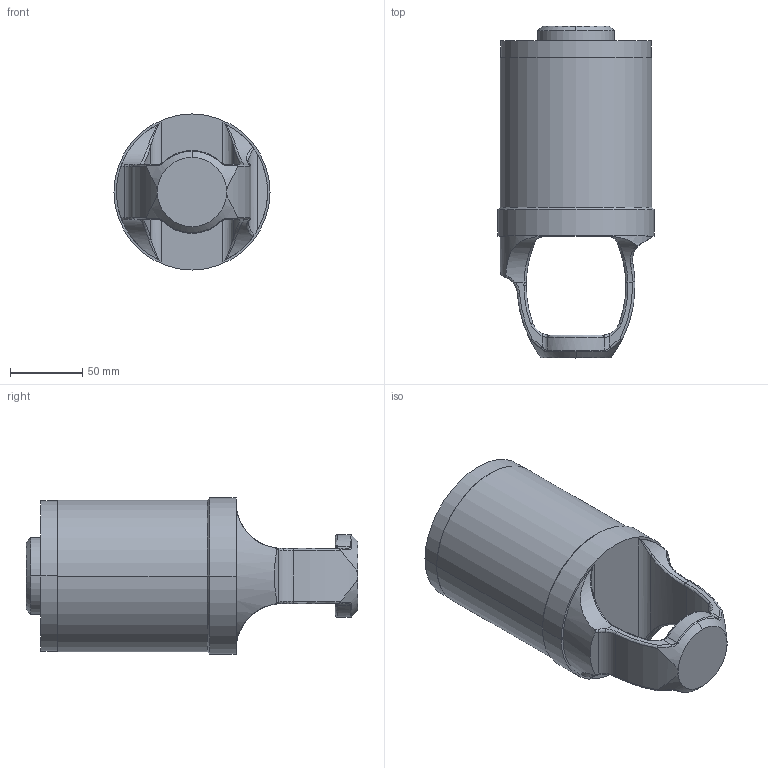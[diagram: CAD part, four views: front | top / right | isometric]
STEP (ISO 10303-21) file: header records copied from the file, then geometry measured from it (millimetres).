
FILE_DESCRIPTION (( 'STEP AP214' ), '1' );
FILE_NAME ('W60 4 IN ACTUATOR.STEP', '2017-11-03T19:47:59', ( '' ), ( '' ), 'SwSTEP 2.0', 'SolidWorks 2014', '' );
FILE_SCHEMA (( 'AUTOMOTIVE_DESIGN' ));
Length unit declared in the file: inch
Products named in the file (1): W60 4 IN ACTUATOR
Bounding box: 107.75 x 229.06 x 107.75 mm (x, y, z)
Volume: 1297487 mm3; surface area: 83373.5 mm2
Topology: 1 solids, 1 shells, 107 faces, 259 edges, 156 vertices
Faces by surface type: bspline 55, cylinder 33, plane 12, cone 7
Entity records: 5027 total; most frequent: CARTESIAN_POINT 2888, ORIENTED_EDGE 518, DIRECTION 350, EDGE_CURVE 259, VERTEX_POINT 156, AXIS2_PLACEMENT_3D 154, EDGE_LOOP 111, FACE_OUTER_BOUND 107
